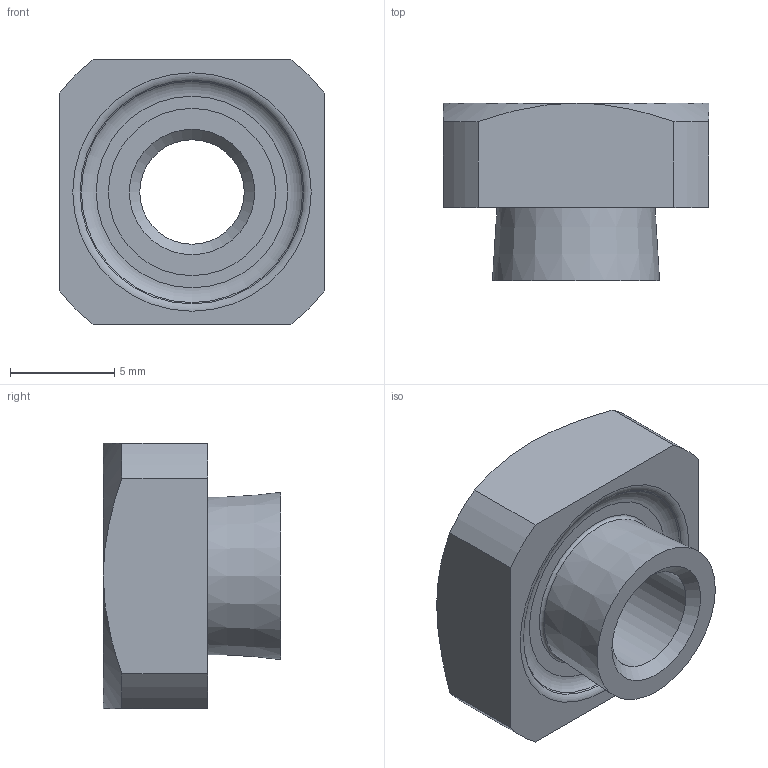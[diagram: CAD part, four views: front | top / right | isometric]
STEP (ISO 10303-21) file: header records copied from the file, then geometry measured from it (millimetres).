
FILE_DESCRIPTION(/* description */ (''),/* implementation_level */ '2;1');
FILE_NAME(/* name */ 'D:\Sukhmani\Fastit\HN Nut\HN 5-4.0.stp',/* time_stamp */ '2024-03-14T12:23:53+06:00',/* author */ ('edc.sukhmani'),/* organization */ (''),/* preprocessor_version */ 'ST-DEVELOPER v18.1',/* originating_system */ 'Autodesk Inventor 2022',/* authorisation */ '');
FILE_SCHEMA (('AUTOMOTIVE_DESIGN { 1 0 10303 214 3 1 1 }'));
Length unit declared in the file: millimetre
Products named in the file (1): HN 5-4.0
Bounding box: 12.72 x 8.5 x 12.72 mm (x, y, z)
Volume: 745.7 mm3; surface area: 726.3 mm2
Topology: 1 solids, 1 shells, 25 faces, 58 edges, 37 vertices
Faces by surface type: cone 8, plane 8, cylinder 6, torus 3
Full cylindrical faces by diameter (mm): 5 x1, 6 x1
Entity records: 763 total; most frequent: CARTESIAN_POINT 137, DIRECTION 134, ORIENTED_EDGE 116, EDGE_CURVE 58, AXIS2_PLACEMENT_3D 58, VERTEX_POINT 37, CIRCLE 32, EDGE_LOOP 29
